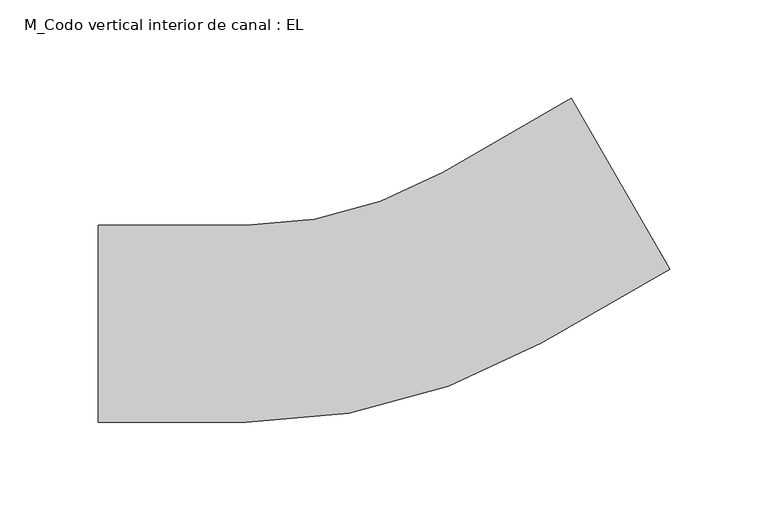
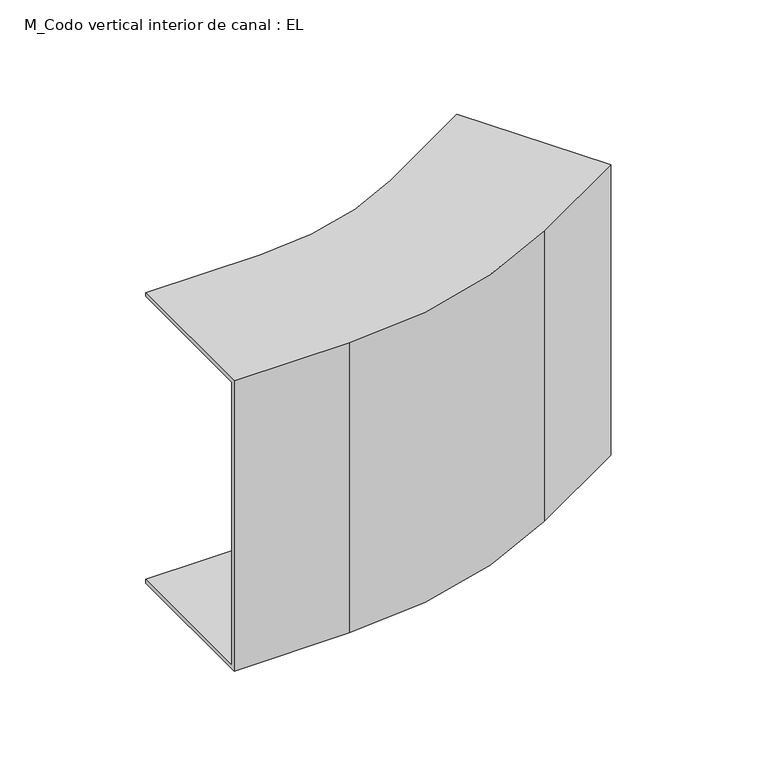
"""IFC4 building model written with IfcOpenShell, lengths in millimetres: cable carrier fitting geometry, M_Codo vertical interior de canal : EL."""

import ifcopenshell
import ifcopenshell.guid

model = None  # the IFC model being written
_history = None  # IfcOwnerHistory: only IFC2X3 demands one
_inside = {}  # id of a spatial element -> (the spatial element, [elements in it])
_under = {}  # id of a project, library or spatial element -> (it, [spatial elements below it])
_declared = {}  # id of a project -> (the project, [libraries it declares])
_typed = {}  # id of a type object -> (the type object, [elements of that type])
_made_of = {}  # id of a material, layer set ... -> (it, [elements and type objects made of it])


def new_model(schema):
    """Start an empty IFC model of exactly this schema.

    Asked for "IFC4X3", IfcOpenShell would pick the latest addendum, in which some entities
    have other attributes; the version numbers below select the first issue.
    IFC2X3 requires an IfcOwnerHistory on every rooted entity: one is made here for all.
    """
    global model, _history
    if schema == "IFC4X3":
        model = ifcopenshell.file(schema_version=(4, 3, 0, 0))
    else:
        model = ifcopenshell.file(schema=schema)
    _inside.clear()
    _under.clear()
    _declared.clear()
    _typed.clear()
    _made_of.clear()
    _history = None
    if model.schema == "IFC2X3":
        org = make("IfcOrganization", Name="unknown")
        user = make(
            "IfcPersonAndOrganization",
            ThePerson=make("IfcPerson", FamilyName="unknown"),
            TheOrganization=org,
        )
        app = make(
            "IfcApplication",
            ApplicationDeveloper=org,
            Version="unknown",
            ApplicationFullName="unknown",
            ApplicationIdentifier="unknown",
        )
        _history = make(
            "IfcOwnerHistory",
            OwningUser=user,
            OwningApplication=app,
            ChangeAction="ADDED",
            CreationDate=0,
        )
    return model


def make(cls, **values):
    """One entity of the class cls with the attributes given. An attribute that is None is left unset."""
    return model.create_entity(
        cls, **{name: value for name, value in values.items() if value is not None}
    )


def rooted(cls, **values):
    """An entity with a GlobalId (a new one), such as an element, a storey or a relation."""
    return make(cls, GlobalId=ifcopenshell.guid.new(), OwnerHistory=_history, **values)


def si_unit(unit_type, name, prefix=None):
    """IfcSIUnit, for example si_unit("LENGTHUNIT", "METRE", prefix="MILLI")."""
    return make("IfcSIUnit", UnitType=unit_type, Prefix=prefix, Name=name)


def assignment(units):
    """IfcUnitAssignment: the units of a project."""
    return None if units is None else make("IfcUnitAssignment", Units=units)


def point(xyz):
    """IfcCartesianPoint."""
    return None if xyz is None else make("IfcCartesianPoint", Coordinates=xyz)


def direction(xyz):
    """IfcDirection."""
    return None if xyz is None else make("IfcDirection", DirectionRatios=xyz)


def frame(location, z_axis=None, x_axis=None):
    """IfcAxis2Placement3D, a coordinate frame: its origin and axes. An axis left out is left unset."""
    return make(
        "IfcAxis2Placement3D",
        Location=point(location),
        Axis=direction(z_axis),
        RefDirection=direction(x_axis),
    )


def origin():
    """The frame at (0, 0, 0) with its axes left unset."""
    return frame((0.0, 0.0, 0.0))


def place(relative_to, where):
    """IfcLocalPlacement: puts the frame where relative to a parent placement (None: the world)."""
    return make(
        "IfcLocalPlacement", PlacementRelTo=relative_to, RelativePlacement=where
    )


def context(
    kind, dimensions, precision=None, world=None, true_north=None, identifier=None
):
    """IfcGeometricRepresentationContext, for example the 3D "Model" context."""
    return make(
        "IfcGeometricRepresentationContext",
        ContextIdentifier=identifier,
        ContextType=kind,
        CoordinateSpaceDimension=dimensions,
        Precision=precision,
        WorldCoordinateSystem=world,
        TrueNorth=true_north,
    )


def project(units=None, contexts=None):
    """IfcProject with its units and contexts."""
    return rooted(
        "IfcProject",
        Name="project",
        RepresentationContexts=contexts,
        UnitsInContext=assignment(units),
    )


def spatial(cls, under=None, at=None, **own):
    """A site, building, storey or space (cls), placed at a placement, below another one or the project."""
    s = rooted(cls, ObjectPlacement=at, **own)
    if under is not None:
        _under.setdefault(under.id(), (under, []))[1].append(s)
    return s


def polyline(points):
    """IfcPolyline through the points."""
    return make("IfcPolyline", Points=[point(p) for p in points])


def circle_curve(where, radius):
    """IfcCircle in the frame where."""
    return make("IfcCircle", Position=where, Radius=radius)


def shape(context_of_items, identifier, shape_type, items):
    """IfcShapeRepresentation: the items that make up one representation, for example the "Body"."""
    return make(
        "IfcShapeRepresentation",
        ContextOfItems=context_of_items,
        RepresentationIdentifier=identifier,
        RepresentationType=shape_type,
        Items=items,
    )


def source(mapping_origin, context_of_items, identifier, shape_type, items):
    """IfcRepresentationMap: a shape defined once, which mapped items show again and again."""
    return make(
        "IfcRepresentationMap",
        MappingOrigin=mapping_origin,
        MappedRepresentation=shape(context_of_items, identifier, shape_type, items),
    )


def transform(
    local_origin,
    x_axis=None,
    y_axis=None,
    z_axis=None,
    scale=None,
    scale2=None,
    scale3=None,
    uniform=True,
):
    """IfcCartesianTransformationOperator3D, or its non-uniform kind. x_axis, y_axis, z_axis: its Axis1, 2, 3."""
    if uniform:
        return make(
            "IfcCartesianTransformationOperator3D",
            Axis1=direction(x_axis),
            Axis2=direction(y_axis),
            LocalOrigin=point(local_origin),
            Scale=scale,
            Axis3=direction(z_axis),
        )
    return make(
        "IfcCartesianTransformationOperator3DnonUniform",
        Axis1=direction(x_axis),
        Axis2=direction(y_axis),
        LocalOrigin=point(local_origin),
        Scale=scale,
        Axis3=direction(z_axis),
        Scale2=scale2,
        Scale3=scale3,
    )


def mapped(mapping_source, mapping_target):
    """IfcMappedItem: shows the shape of a source again, moved by a transform."""
    return make(
        "IfcMappedItem", MappingSource=mapping_source, MappingTarget=mapping_target
    )


def made_of(thing, what):
    """Note that an element or type object is made of a material, layer set ...; save() writes the relation."""
    if what is not None:
        _made_of.setdefault(what.id(), (what, []))[1].append(thing)
    return thing


def element(
    cls,
    number,
    at=None,
    inside=None,
    cuts=None,
    type_object=None,
    material=None,
    context=None,
    identifier="Body",
    shape_type=None,
    held_by="IfcProductDefinitionShape",
    body=None,
    shapes=None,
    **own,
):
    """One element of the class cls, such as IfcWall. Its Tag is "e" and its number.

    at: its placement. inside: the storey or other place that contains it. cuts: it is an
    opening in that element (IfcRelVoidsElement). A single representation is given by context,
    identifier, shape_type and body (its items); several are given by shapes. held_by: the class
    of the entity that holds the representations. save() writes the other relations.
    """
    e = rooted(cls, Tag="e%d" % number, ObjectPlacement=at, **own)
    if body is not None:
        shapes = [shape(context, identifier, shape_type, body)]
    if shapes is not None:
        e.Representation = make(held_by, Representations=shapes)
    if inside is not None:
        _inside.setdefault(inside.id(), (inside, []))[1].append(e)
    if cuts is not None:
        rooted(
            "IfcRelVoidsElement", RelatingBuildingElement=cuts, RelatedOpeningElement=e
        )
    if type_object is not None:
        _typed.setdefault(type_object.id(), (type_object, []))[1].append(e)
    return made_of(e, material)


def aggregate(whole, parts):
    """IfcRelAggregates: a whole, such as a stair, and the parts it consists of."""
    return rooted("IfcRelAggregates", RelatingObject=whole, RelatedObjects=parts)


def save(model, path):
    """Write the relations noted so far, then the file.

    IfcRelAggregates (storeys below a building ...), IfcRelContainedInSpatialStructure (elements
    in a storey), IfcRelDefinesByType, IfcRelAssociatesMaterial and IfcRelDeclares: one each for
    every whole, place, type object, material and project.
    """
    for whole, parts in _under.values():
        aggregate(whole, parts)
    for where, things in _inside.values():
        rooted(
            "IfcRelContainedInSpatialStructure",
            RelatedElements=things,
            RelatingStructure=where,
        )
    for kind, things in _typed.values():
        rooted("IfcRelDefinesByType", RelatedObjects=things, RelatingType=kind)
    for what, things in _made_of.values():
        rooted("IfcRelAssociatesMaterial", RelatedObjects=things, RelatingMaterial=what)
    for by, libraries in _declared.values():
        rooted("IfcRelDeclares", RelatingContext=by, RelatedDefinitions=libraries)
    model.write(path)


def plane_surface(at):
    """IfcPlane: the flat surface through the origin of the frame at, square to its z axis."""
    return make("IfcPlane", Position=at)


def cylinder_surface(at, radius):
    """IfcCylindricalSurface: all points at the distance radius from the z axis of the frame at."""
    return make("IfcCylindricalSurface", Position=at, Radius=radius)


def revolved_surface(curve, axis_point, axis_direction):
    """IfcSurfaceOfRevolution: the curve turned about the line through axis_point along axis_direction."""
    return make(
        "IfcSurfaceOfRevolution",
        SweptCurve=make("IfcArbitraryOpenProfileDef", ProfileType="CURVE", Curve=curve),
        AxisPosition=make("IfcAxis1Placement", Location=point(axis_point), Axis=direction(axis_direction)),
    )


def advanced_brep(points, edges, surfaces, faces):
    """IfcAdvancedBrep: a solid bounded by faces that lie on surfaces and meet in shared edges.

    An edge is (start, end): straight between two places in points (the first is 0);
    or (start, end, curve); or (start, end, curve, False) where it runs against its curve.
    A face is (place in surfaces, loops), or (place, loops, False) where it looks against
    its surface's normal. A loop lists edges by number (the first is 1), with a minus sign
    where the edge is run from its end to its start. The first loop is the outer one.
    """
    corners = [point(p) for p in points]
    vertices = [make("IfcVertexPoint", VertexGeometry=c) for c in corners]
    made = []
    for start, end, *more in edges:
        made.append(
            make(
                "IfcEdgeCurve",
                EdgeStart=vertices[start],
                EdgeEnd=vertices[end],
                EdgeGeometry=more[0] if more else make("IfcPolyline", Points=[corners[start], corners[end]]),
                SameSense=more[1] if len(more) > 1 else True,
            )
        )
    hull = []
    for where, loops, *sense in faces:
        bounds = []
        for j, loop in enumerate(loops):
            ring = [make("IfcOrientedEdge", EdgeElement=made[abs(k) - 1], Orientation=k > 0) for k in loop]
            bounds.append(
                make(
                    "IfcFaceOuterBound" if j == 0 else "IfcFaceBound",
                    Bound=make("IfcEdgeLoop", EdgeList=ring),
                    Orientation=True,
                )
            )
        hull.append(make("IfcAdvancedFace", Bounds=bounds, FaceSurface=surfaces[where], SameSense=sense[0] if sense else True))
    return make("IfcAdvancedBrep", Outer=make("IfcClosedShell", CfsFaces=hull))


def m_codo_vertical_interior_de_canal_el_369a9aa2(model_context):
    return source(origin(), model_context, "Body", "AdvancedBrep", [
        advanced_brep(
        [(-141.9872981, 50.0, 100.0), (-141.9872981, 50.0, 97.46), (-141.9872981, -47.46, 97.46), (-141.9872981, -47.46, -97.46), (-141.9872981, 50.0, -97.46), (-141.9872981, 50.0, -100.0), (-141.9872981, -50.0, -100.0), (-141.9872981, -50.0, 100.0), (97.9646072, 114.2949192, 100.0), (147.9646072, 27.6923789, 100.0), (147.9646072, 27.6923789, -100.0), (97.9646072, 114.2949192, -100.0), (97.9646072, 114.2949192, -97.46), (146.6946072, 29.8920834, -97.46), (146.6946072, 29.8920834, 97.46), (97.9646072, 114.2949192, 97.46), (-66.9872981, -50.0, 100.0), (83.0127019, -9.8076211, 100.0), (33.0127019, 76.7949192, 100.0), (-66.9872981, 50.0, 100.0), (-66.9872981, -50.0, -100.0), (-66.9872981, 50.0, -100.0), (33.0127019, 76.7949192, -100.0), (83.0127019, -9.8076211, -100.0), (-66.9872981, 50.0, -97.46), (-66.9872981, -47.46, -97.46), (81.7427019, -7.6079166, -97.46), (33.0127019, 76.7949192, -97.46), (-66.9872981, -47.46, 97.46), (-66.9872981, 50.0, 97.46), (33.0127019, 76.7949192, 97.46), (81.7427019, -7.6079166, 97.46)],
        [
            (0, 1),
            (1, 2),
            (2, 3),
            (3, 4),
            (4, 5),
            (5, 6),
            (6, 7),
            (7, 0),
            (8, 9),
            (9, 10),
            (10, 11),
            (11, 12),
            (12, 13),
            (13, 14),
            (14, 15),
            (15, 8),
            (7, 16),
            (16, 17, circle_curve(frame((-66.9872981, 250.0, 100.0), z_axis=(0.0, 0.0, 1.0), x_axis=(0.0, -1.0, 0.0)), 300.0)),
            (17, 9),
            (8, 18),
            (18, 19, circle_curve(frame((-66.9872981, 250.0, 100.0), z_axis=(0.0, 0.0, -1.0), x_axis=(0.0, -1.0, 0.0)), 200.0)),
            (19, 0),
            (6, 20),
            (20, 16),
            (5, 21),
            (21, 22, circle_curve(frame((-66.9872981, 250.0, -100.0), z_axis=(0.0, 0.0, 1.0), x_axis=(0.0, -1.0, 0.0)), 200.0)),
            (22, 11),
            (10, 23),
            (23, 20, circle_curve(frame((-66.9872981, 250.0, -100.0), z_axis=(0.0, 0.0, -1.0), x_axis=(0.0, -1.0, 0.0)), 300.0)),
            (4, 24),
            (24, 21),
            (3, 25),
            (25, 26, circle_curve(frame((-66.9872981, 250.0, -97.46), z_axis=(0.0, 0.0, 1.0), x_axis=(0.0, -1.0, 0.0)), 297.46)),
            (26, 13),
            (12, 27),
            (27, 24, circle_curve(frame((-66.9872981, 250.0, -97.46), z_axis=(0.0, 0.0, -1.0), x_axis=(0.0, -1.0, 0.0)), 200.0)),
            (2, 28),
            (28, 25),
            (1, 29),
            (29, 30, circle_curve(frame((-66.9872981, 250.0, 97.46), z_axis=(0.0, 0.0, 1.0), x_axis=(0.0, -1.0, 0.0)), 200.0)),
            (30, 15),
            (14, 31),
            (31, 28, circle_curve(frame((-66.9872981, 250.0, 97.46), z_axis=(0.0, 0.0, -1.0), x_axis=(0.0, -1.0, 0.0)), 297.46)),
            (19, 29),
            (23, 17),
            (27, 22),
            (31, 26),
            (18, 30),
        ],
        [
            plane_surface(frame((-141.9872981, 0.0, 0.0), z_axis=(-1.0, 0.0, 0.0), x_axis=(0.0, 0.0, 1.0))),
            plane_surface(frame((122.9646072, 70.9936491, 0.0), z_axis=(0.8660254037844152, 0.5000000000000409, 0.0), x_axis=(0.0, 0.0, 1.0))),
            plane_surface(frame((-141.9872981, -50.0, 100.0), z_axis=(0.0, 0.0, 1.0), x_axis=(1.0, 0.0, 0.0))),
            plane_surface(frame((-141.9872981, -50.0, -100.0), z_axis=(0.0, -1.0, 0.0), x_axis=(1.0, 0.0, 0.0))),
            plane_surface(frame((-141.9872981, 50.0, -100.0), z_axis=(0.0, 0.0, -1.0), x_axis=(1.0, 0.0, 0.0))),
            plane_surface(frame((-141.9872981, 50.0, -97.46), z_axis=(0.0, 1.0, 0.0), x_axis=(1.0, 0.0, 0.0))),
            plane_surface(frame((-141.9872981, -47.46, -97.46), z_axis=(0.0, 0.0, 1.0), x_axis=(1.0, 0.0, 0.0))),
            plane_surface(frame((-141.9872981, -47.46, 97.46), z_axis=(0.0, 1.0, 0.0), x_axis=(1.0, 0.0, 0.0))),
            plane_surface(frame((-141.9872981, 50.0, 97.46), z_axis=(0.0, 0.0, -1.0), x_axis=(1.0, 0.0, 0.0))),
            plane_surface(frame((-141.9872981, 50.0, 100.0), z_axis=(0.0, 1.0, 0.0), x_axis=(1.0, 0.0, 0.0))),
            cylinder_surface(frame((-66.9872981, 250.0, 0.0), z_axis=(0.0, 0.0, 1.0), x_axis=(0.0, -1.0, 0.0)), 300.0),
            revolved_surface(polyline([(-66.9872981, 50.0, -97.46), (-66.9872981, 50.0, -100.0)]), (-66.9872981, 250.0, 0.0), (0.0, 0.0, 1.0)),
            revolved_surface(polyline([(-66.9872981, -47.45999999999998, 97.46), (-66.9872981, -47.45999999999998, -97.46)]), (-66.9872981, 250.0, 0.0), (0.0, 0.0, 1.0)),
            revolved_surface(polyline([(-66.9872981, 50.0, 100.0), (-66.9872981, 50.0, 97.46)]), (-66.9872981, 250.0, 0.0), (0.0, 0.0, 1.0)),
            plane_surface(frame((83.0127019, -9.8076211, -100.0), z_axis=(0.5000000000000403, -0.8660254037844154, 0.0), x_axis=(0.8660254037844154, 0.5000000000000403, 0.0))),
            plane_surface(frame((33.0127019, 76.7949192, -97.46), z_axis=(-0.5000000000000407, 0.8660254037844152, 0.0), x_axis=(0.8660254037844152, 0.5000000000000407, 0.0))),
            plane_surface(frame((81.7427019, -7.6079166, 97.46), z_axis=(-0.5000000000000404, 0.8660254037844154, 0.0), x_axis=(0.8660254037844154, 0.5000000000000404, 0.0))),
            plane_surface(frame((33.0127019, 76.7949192, 100.0), z_axis=(-0.5000000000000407, 0.8660254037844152, 0.0), x_axis=(0.8660254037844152, 0.5000000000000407, 0.0))),
        ],
        [
            (0, [[1, 2, 3, 4, 5, 6, 7, 8]]),
            (1, [[9, 10, 11, 12, 13, 14, 15, 16]]),
            (2, [[-8, 17, 18, 19, -9, 20, 21, 22]]),
            (3, [[-7, 23, 24, -17]]),
            (4, [[-6, 25, 26, 27, -11, 28, 29, -23]]),
            (5, [[-5, 30, 31, -25]]),
            (6, [[-4, 32, 33, 34, -13, 35, 36, -30]]),
            (7, [[-3, 37, 38, -32]]),
            (8, [[-2, 39, 40, 41, -15, 42, 43, -37]]),
            (9, [[-1, -22, 44, -39]]),
            (10, [[-18, -24, -29, 45]]),
            (11, [[-26, -31, -36, 46]]),
            (12, [[-33, -38, -43, 47]]),
            (13, [[-40, -44, -21, 48]]),
            (14, [[-45, -28, -10, -19]]),
            (15, [[-46, -35, -12, -27]]),
            (16, [[-47, -42, -14, -34]]),
            (17, [[-48, -20, -16, -41]]),
        ],
    ),
    ])


if __name__ == "__main__":
    model = new_model("IFC4")
    model_context = context("Model", 3, world=origin())
    ifc_project = project(units=[si_unit("LENGTHUNIT", "METRE", prefix="MILLI")], contexts=[model_context])
    site = spatial("IfcSite", under=ifc_project)
    building = spatial("IfcBuilding", under=site)
    placement = place(None, origin())
    m_codo_vertical_interior_de_canal_el_shape = m_codo_vertical_interior_de_canal_el_369a9aa2(model_context)
    element("IfcCableCarrierFitting", 1, ObjectType="M_Codo vertical interior de canal : EL", at=placement, inside=building, context=model_context, shape_type="MappedRepresentation", body=[
        mapped(m_codo_vertical_interior_de_canal_el_shape, transform((0.0, 0.0, 0.0), x_axis=(1.0, 0.0, 0.0), y_axis=(0.0, 1.0, 0.0), z_axis=(0.0, 0.0, 1.0))),
    ])
    save(model, "model.ifc")
